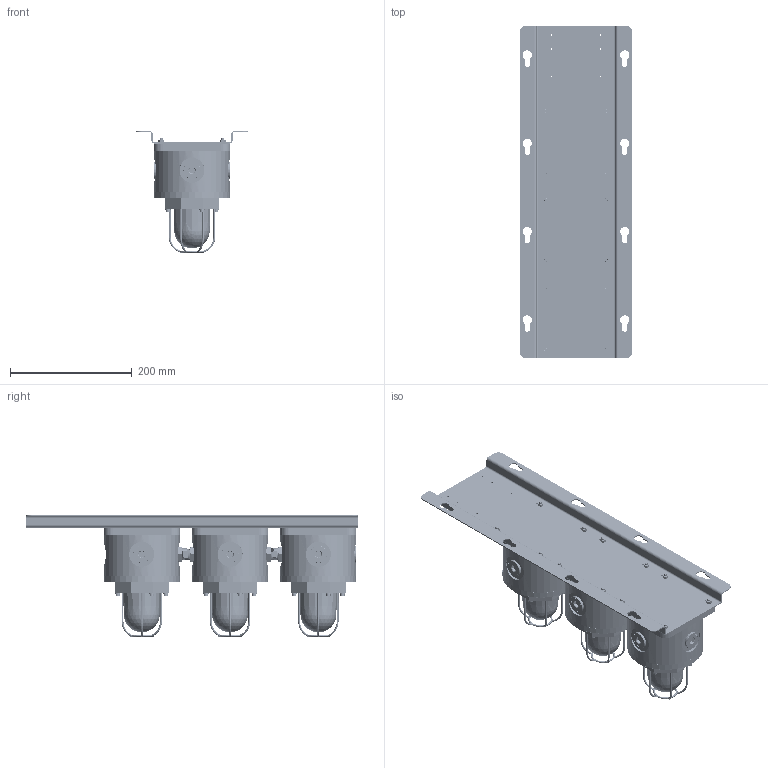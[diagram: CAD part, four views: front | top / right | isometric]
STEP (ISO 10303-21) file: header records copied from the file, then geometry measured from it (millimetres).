
FILE_DESCRIPTION((''),'2;1');
FILE_NAME('0-SL125-TYP3_ASM','2015-12-21T',('Administrator'),(''),'PRO/ENGINEER BY PARAMETRIC TECHNOLOGY CORPORATION, 2008090','PRO/ENGINEER BY PARAMETRIC TECHNOLOGY CORPORATION, 2008090','');
FILE_SCHEMA(('CONFIG_CONTROL_DESIGN'));
Length unit declared in the file: millimetre
Products named in the file (27): 50020110263; 55060110101; 55060110102; 50060110110; 50060110109; 55060170107; 50060111202; 50060110108; 50060111201; GTS5; 50000010301-M5; M4-10; M5-15-ALL; SANN5-075; 50050180237; 55100110920; 0-BC125_AF2_ASM; 0-BC125_AF3_ASM; 0-BC125_AF4_ASM; 50000010101; 50020110229; 55020110203; LINE-9; 51872010006; 50020110207; 0-CT20_ASM; 0-SL125-TYP3_ASM
Assembly tree (120 placements, depth 3):
  0-SL125-TYP3_ASM
    50020110263
    0-BC125_AF2_ASM
      55060110101
      55060110102
      50060110110
      50060110109
      55060170107
      50060111202
      50060110108
      50060111201
      GTS5  x8
      50000010301-M5  x4
      M4-10  x4
      M5-15-ALL  x4
      SANN5-075  x4
      50050180237
      55100110920  x2
    0-BC125_AF3_ASM
      55060110101
      55060110102
      50060110110
      50060110109
      55060170107
      50060111202
      50060110108
      50060111201
      GTS5  x8
      50000010301-M5  x4
      M4-10  x4
      M5-15-ALL  x4
      SANN5-075  x4
      50050180237
      55100110920  x2
    0-BC125_AF4_ASM
      55060110101
      55060110102
      50060110110
      50060110109
      55060170107
      50060111202
      50060110108
      50060111201
      GTS5  x8
      50000010301-M5  x4
      M4-10  x4
      M5-15-ALL  x4
      SANN5-075  x4
      50050180237
      55100110920  x2
    50000010101
    50020110229
    55100110920
    0-CT20_ASM  x2
      55020110203
      LINE-9
      51872010006
      50020110207
Bounding box: 185 x 545 x 199.2 mm (x, y, z)
Volume: 2402888.5 mm3; surface area: 1039447.3 mm2
Topology: 137 solids, 263 shells, 11727 faces, 31432 edges, 20661 vertices
Faces by surface type: plane 8684, cylinder 1895, cone 728, torus 228, bspline 180, sphere 12
Entity records: 89045 total; most frequent: CARTESIAN_POINT 32605, ORIENTED_EDGE 11520, DIRECTION 11347, EDGE_CURVE 5825, VECTOR 4191, LINE 4191, VERTEX_POINT 3833, AXIS2_PLACEMENT_3D 3578
